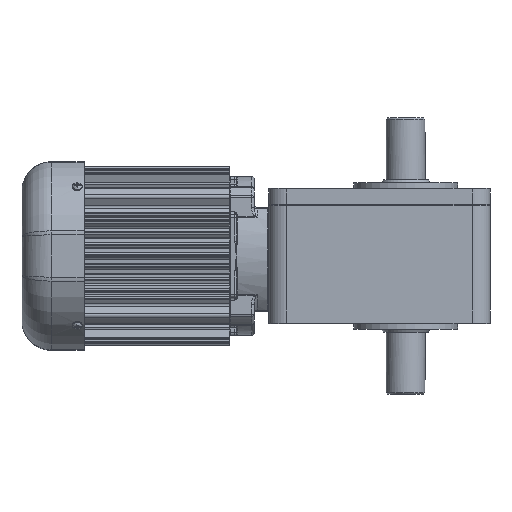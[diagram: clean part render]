
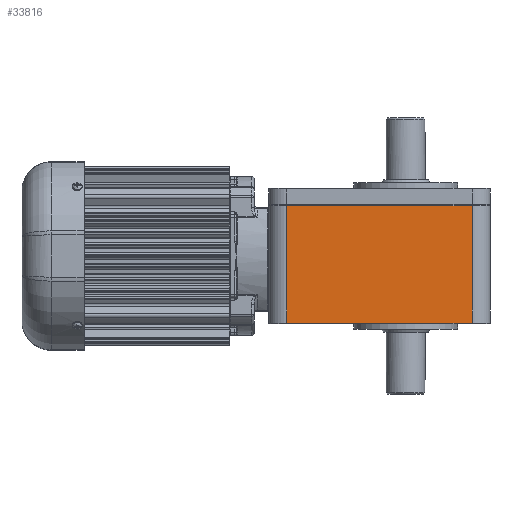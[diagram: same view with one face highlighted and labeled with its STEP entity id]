
A CAD part, front view. The second image highlights one B-rep face of the part: STEP entity #33816.
In plain terms, the highlighted planar face has unit normal (0, -1, 0).
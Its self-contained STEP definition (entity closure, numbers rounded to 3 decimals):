
#1014=PLANE('',#37155);
#2859=FACE_OUTER_BOUND('',#4832,.T.);
#4832=EDGE_LOOP('',(#27517,#27518,#27519,#27520));
#9191=LINE('',#60007,#11588);
#9192=LINE('',#60009,#11589);
#9193=LINE('',#60011,#11590);
#9194=LINE('',#60012,#11591);
#11588=VECTOR('',#45439,134.);
#11589=VECTOR('',#45440,85.);
#11590=VECTOR('',#45441,134.);
#11591=VECTOR('',#45442,85.);
#14869=VERTEX_POINT('',#60005);
#14870=VERTEX_POINT('',#60006);
#14871=VERTEX_POINT('',#60008);
#14872=VERTEX_POINT('',#60010);
#19229=EDGE_CURVE('',#14869,#14870,#9191,.T.);
#19230=EDGE_CURVE('',#14869,#14871,#9192,.T.);
#19231=EDGE_CURVE('',#14872,#14871,#9193,.T.);
#19232=EDGE_CURVE('',#14870,#14872,#9194,.T.);
#27517=ORIENTED_EDGE('',*,*,#19229,.F.);
#27518=ORIENTED_EDGE('',*,*,#19230,.T.);
#27519=ORIENTED_EDGE('',*,*,#19231,.F.);
#27520=ORIENTED_EDGE('',*,*,#19232,.F.);
#33816=ADVANCED_FACE('',(#2859),#1014,.T.);
#37155=AXIS2_PLACEMENT_3D('',#60004,#45437,#45438);
#45437=DIRECTION('center_axis',(0.,-1.,0.));
#45438=DIRECTION('ref_axis',(0.,0.,-1.));
#45439=DIRECTION('',(-1.,0.,0.));
#45440=DIRECTION('',(0.,0.,1.));
#45441=DIRECTION('',(1.,0.,0.));
#45442=DIRECTION('',(0.,0.,1.));
#60004=CARTESIAN_POINT('Origin',(48.,-87.,0.));
#60005=CARTESIAN_POINT('',(48.,-87.,-48.5));
#60006=CARTESIAN_POINT('',(-86.,-87.,-48.5));
#60007=CARTESIAN_POINT('',(48.,-87.,-48.5));
#60008=CARTESIAN_POINT('',(48.,-87.,36.5));
#60009=CARTESIAN_POINT('',(48.,-87.,-48.5));
#60010=CARTESIAN_POINT('',(-86.,-87.,36.5));
#60011=CARTESIAN_POINT('',(-86.,-87.,36.5));
#60012=CARTESIAN_POINT('',(-86.,-87.,-48.5));
